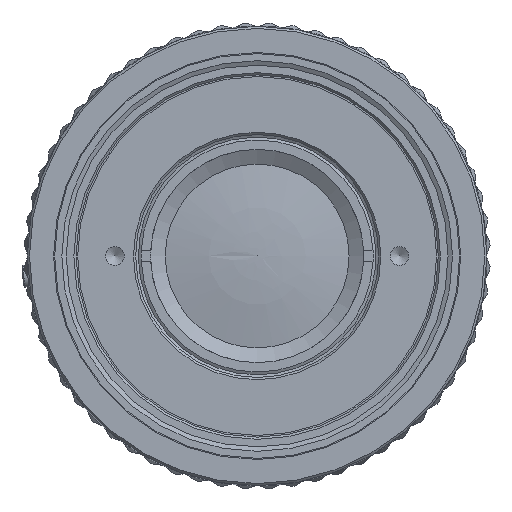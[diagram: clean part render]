
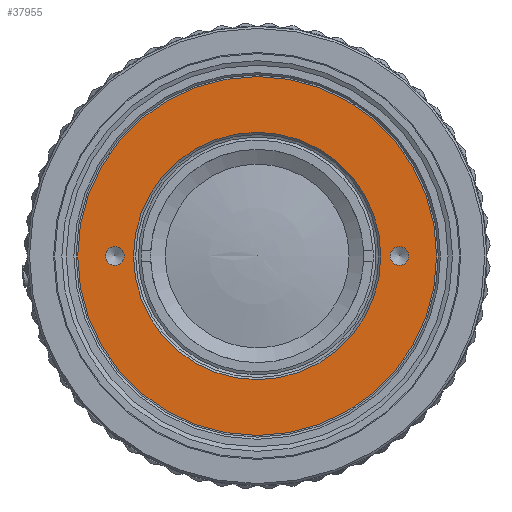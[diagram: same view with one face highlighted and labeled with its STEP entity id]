
A CAD part, left-side view. The second image highlights one B-rep face of the part: STEP entity #37955.
In plain terms, the highlighted planar face has unit normal (-1, 0, 0).
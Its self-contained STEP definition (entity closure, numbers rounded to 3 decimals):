
#37955=ADVANCED_FACE('',(#39885,#39886,#39887,#43289),#39748,.F.);
#39748=PLANE('',#87200);
#39885=FACE_BOUND('',#46748,.T.);
#39886=FACE_BOUND('',#46749,.T.);
#39887=FACE_BOUND('',#46750,.T.);
#43289=FACE_OUTER_BOUND('',#46751,.T.);
#46748=EDGE_LOOP('',(#64380));
#46749=EDGE_LOOP('',(#64381));
#46750=EDGE_LOOP('',(#64382));
#46751=EDGE_LOOP('',(#64383));
#64380=ORIENTED_EDGE('',*,*,#79183,.T.);
#64381=ORIENTED_EDGE('',*,*,#79184,.T.);
#64382=ORIENTED_EDGE('',*,*,#79185,.T.);
#64383=ORIENTED_EDGE('',*,*,#79182,.F.);
#70299=VERTEX_POINT('',#131705);
#70300=VERTEX_POINT('',#131708);
#70301=VERTEX_POINT('',#131710);
#70302=VERTEX_POINT('',#131712);
#79182=EDGE_CURVE('',#70299,#70299,#81616,.T.);
#79183=EDGE_CURVE('',#70300,#70300,#81617,.T.);
#79184=EDGE_CURVE('',#70301,#70301,#81618,.T.);
#79185=EDGE_CURVE('',#70302,#70302,#81619,.T.);
#81616=CIRCLE('',#87195,16.4);
#81617=CIRCLE('',#87197,11.3);
#81618=CIRCLE('',#87198,0.85);
#81619=CIRCLE('',#87199,0.85);
#87195=AXIS2_PLACEMENT_3D('',#131704,#100587,#100588);
#87197=AXIS2_PLACEMENT_3D('',#131707,#100591,#100592);
#87198=AXIS2_PLACEMENT_3D('',#131709,#100593,#100594);
#87199=AXIS2_PLACEMENT_3D('',#131711,#100595,#100596);
#87200=AXIS2_PLACEMENT_3D('',#131713,#100597,#100598);
#100587=DIRECTION('',(1.,0.,0.));
#100588=DIRECTION('',(0.,1.,0.));
#100591=DIRECTION('',(1.,0.,0.));
#100592=DIRECTION('',(0.,0.,-1.));
#100593=DIRECTION('',(1.,0.,0.));
#100594=DIRECTION('',(0.,0.,1.));
#100595=DIRECTION('',(1.,0.,0.));
#100596=DIRECTION('',(0.,0.,-1.));
#100597=DIRECTION('',(1.,0.,0.));
#100598=DIRECTION('',(0.,0.,-1.));
#131704=CARTESIAN_POINT('',(-54.158,0.,0.));
#131705=CARTESIAN_POINT('',(-54.158,16.4,0.));
#131707=CARTESIAN_POINT('',(-54.158,0.,0.));
#131708=CARTESIAN_POINT('',(-54.158,0.,-11.3));
#131709=CARTESIAN_POINT('',(-54.158,-13.,0.));
#131710=CARTESIAN_POINT('',(-54.158,-13.,0.85));
#131711=CARTESIAN_POINT('',(-54.158,13.,0.));
#131712=CARTESIAN_POINT('',(-54.158,13.,-0.85));
#131713=CARTESIAN_POINT('',(-54.158,0.,0.));
